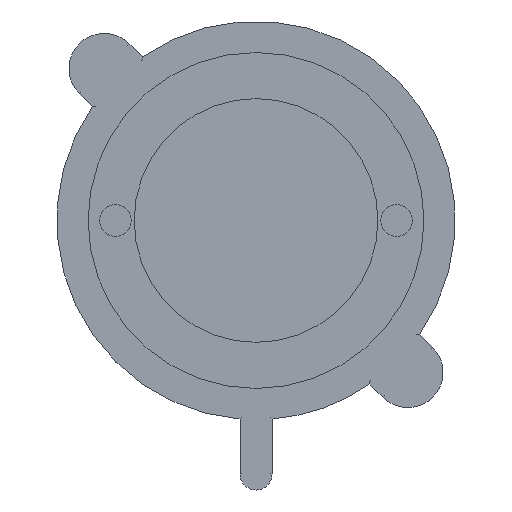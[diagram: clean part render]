
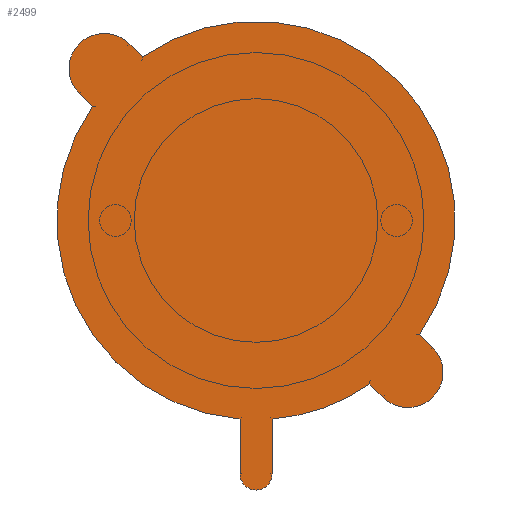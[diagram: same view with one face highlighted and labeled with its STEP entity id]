
A CAD part, top view. The second image highlights one B-rep face of the part: STEP entity #2499.
In plain terms, the highlighted planar face has unit normal (0, 0, 1).
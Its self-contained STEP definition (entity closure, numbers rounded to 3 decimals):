
#2499=ADVANCED_FACE('',(#3766),#3372,.T.);
#3372=PLANE('',#15838);
#3766=FACE_OUTER_BOUND('',#4539,.T.);
#4539=EDGE_LOOP('',(#5811,#5812,#5813,#5814,#5815,#5816,#5817,#5818,#5819,
#5820,#5821,#5822));
#5811=ORIENTED_EDGE('',*,*,#11235,.F.);
#5812=ORIENTED_EDGE('',*,*,#11237,.F.);
#5813=ORIENTED_EDGE('',*,*,#11238,.F.);
#5814=ORIENTED_EDGE('',*,*,#11210,.F.);
#5815=ORIENTED_EDGE('',*,*,#11265,.F.);
#5816=ORIENTED_EDGE('',*,*,#11263,.F.);
#5817=ORIENTED_EDGE('',*,*,#11261,.F.);
#5818=ORIENTED_EDGE('',*,*,#11208,.F.);
#5819=ORIENTED_EDGE('',*,*,#11267,.F.);
#5820=ORIENTED_EDGE('',*,*,#11269,.F.);
#5821=ORIENTED_EDGE('',*,*,#11270,.F.);
#5822=ORIENTED_EDGE('',*,*,#11214,.F.);
#9760=VERTEX_POINT('',#20919);
#9761=VERTEX_POINT('',#20921);
#9762=VERTEX_POINT('',#20928);
#9763=VERTEX_POINT('',#20929);
#9764=VERTEX_POINT('',#20943);
#9765=VERTEX_POINT('',#20945);
#9780=VERTEX_POINT('',#20997);
#9781=VERTEX_POINT('',#21001);
#9798=VERTEX_POINT('',#21059);
#9799=VERTEX_POINT('',#21063);
#9800=VERTEX_POINT('',#21069);
#9801=VERTEX_POINT('',#21073);
#11208=EDGE_CURVE('',#9760,#9761,#15331,.T.);
#11210=EDGE_CURVE('',#9762,#9763,#15332,.T.);
#11214=EDGE_CURVE('',#9764,#9765,#15333,.T.);
#11235=EDGE_CURVE('',#9780,#9764,#13246,.T.);
#11237=EDGE_CURVE('',#9781,#9780,#15346,.T.);
#11238=EDGE_CURVE('',#9763,#9781,#13248,.T.);
#11261=EDGE_CURVE('',#9761,#9798,#13261,.T.);
#11263=EDGE_CURVE('',#9798,#9799,#15357,.T.);
#11265=EDGE_CURVE('',#9799,#9762,#13264,.T.);
#11267=EDGE_CURVE('',#9800,#9760,#13266,.T.);
#11269=EDGE_CURVE('',#9801,#9800,#15358,.T.);
#11270=EDGE_CURVE('',#9765,#9801,#13268,.T.);
#13246=LINE('',#20998,#14181);
#13248=LINE('',#21004,#14183);
#13261=LINE('',#21058,#14196);
#13264=LINE('',#21066,#14199);
#13266=LINE('',#21070,#14201);
#13268=LINE('',#21076,#14203);
#14181=VECTOR('',#17265,1.);
#14183=VECTOR('',#17273,1.);
#14196=VECTOR('',#17336,1.);
#14199=VECTOR('',#17345,1.);
#14201=VECTOR('',#17349,1.);
#14203=VECTOR('',#17357,1.);
#15331=CIRCLE('',#15769,25.5);
#15332=CIRCLE('',#15771,25.5);
#15333=CIRCLE('',#15773,25.5);
#15346=CIRCLE('',#15801,2.05);
#15357=CIRCLE('',#15829,4.5);
#15358=CIRCLE('',#15833,4.5);
#15769=AXIS2_PLACEMENT_3D('',#20920,#17196,#17197);
#15771=AXIS2_PLACEMENT_3D('',#20927,#17200,#17201);
#15773=AXIS2_PLACEMENT_3D('',#20944,#17204,#17205);
#15801=AXIS2_PLACEMENT_3D('',#21002,#17269,#17270);
#15829=AXIS2_PLACEMENT_3D('',#21062,#17340,#17341);
#15833=AXIS2_PLACEMENT_3D('',#21074,#17353,#17354);
#15838=AXIS2_PLACEMENT_3D('',#21080,#17364,#17365);
#17196=DIRECTION('',(0.,0.,-1.));
#17197=DIRECTION('',(1.,0.,0.));
#17200=DIRECTION('',(0.,0.,-1.));
#17201=DIRECTION('',(1.,0.,0.));
#17204=DIRECTION('',(0.,0.,-1.));
#17205=DIRECTION('',(1.,0.,0.));
#17265=DIRECTION('',(0.,1.,0.));
#17269=DIRECTION('',(0.,0.,-1.));
#17270=DIRECTION('',(1.,0.,0.));
#17273=DIRECTION('',(0.,-1.,0.));
#17336=DIRECTION('',(0.707,-0.707,0.));
#17340=DIRECTION('',(0.,0.,-1.));
#17341=DIRECTION('',(1.,0.,0.));
#17345=DIRECTION('',(-0.707,0.707,0.));
#17349=DIRECTION('',(0.707,-0.707,0.));
#17353=DIRECTION('',(0.,0.,-1.));
#17354=DIRECTION('',(1.,0.,0.));
#17357=DIRECTION('',(-0.707,0.707,0.));
#17364=DIRECTION('',(0.,0.,1.));
#17365=DIRECTION('',(1.,0.,0.));
#20919=CARTESIAN_POINT('',(-14.733,20.18,76.));
#20920=CARTESIAN_POINT('',(-0.167,-0.75,76.));
#20921=CARTESIAN_POINT('',(20.764,-15.316,76.));
#20927=CARTESIAN_POINT('',(-0.167,-0.75,76.));
#20928=CARTESIAN_POINT('',(14.4,-21.68,76.));
#20929=CARTESIAN_POINT('',(1.883,-26.167,76.));
#20943=CARTESIAN_POINT('',(-2.217,-26.167,76.));
#20944=CARTESIAN_POINT('',(-0.167,-0.75,76.));
#20945=CARTESIAN_POINT('',(-21.097,13.816,76.));
#20997=CARTESIAN_POINT('',(-2.217,-33.2,76.));
#20998=CARTESIAN_POINT('',(-2.217,-26.203,76.));
#21001=CARTESIAN_POINT('',(1.883,-33.2,76.));
#21002=CARTESIAN_POINT('',(-0.167,-33.2,76.));
#21004=CARTESIAN_POINT('',(1.883,-33.2,76.));
#21058=CARTESIAN_POINT('',(3.015,2.432,76.));
#21059=CARTESIAN_POINT('',(22.461,-17.013,76.));
#21062=CARTESIAN_POINT('',(19.279,-20.195,76.));
#21063=CARTESIAN_POINT('',(16.097,-23.377,76.));
#21066=CARTESIAN_POINT('',(-3.349,-3.932,76.));
#21069=CARTESIAN_POINT('',(-16.43,21.877,76.));
#21070=CARTESIAN_POINT('',(3.015,2.432,76.));
#21073=CARTESIAN_POINT('',(-22.794,15.513,76.));
#21074=CARTESIAN_POINT('',(-19.612,18.695,76.));
#21076=CARTESIAN_POINT('',(-3.349,-3.932,76.));
#21080=CARTESIAN_POINT('',(-0.167,-0.75,76.));
